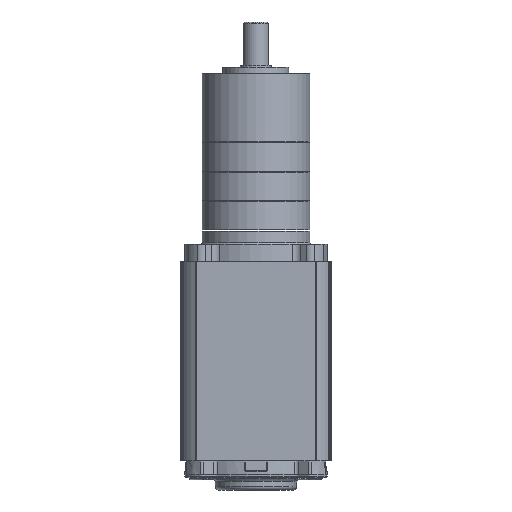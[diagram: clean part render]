
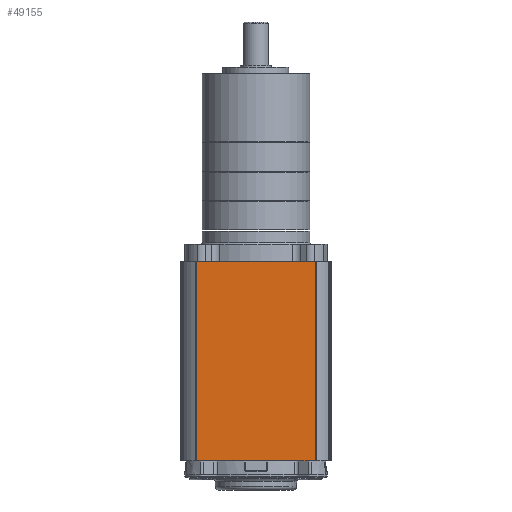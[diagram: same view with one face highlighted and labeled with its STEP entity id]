
A CAD part, front view. The second image highlights one B-rep face of the part: STEP entity #49155.
In plain terms, the highlighted planar face has unit normal (0, -1, 0).
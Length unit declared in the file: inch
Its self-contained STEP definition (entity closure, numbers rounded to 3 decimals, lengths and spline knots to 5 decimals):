
#454 = VECTOR ( 'NONE', #9520, 39.37008 ) ;
#1269 = EDGE_CURVE ( 'NONE', #53486, #15435, #15185, .T. ) ;
#2892 = CARTESIAN_POINT ( 'NONE',  ( -1.1275, -1.442, -1.83454 ) ) ;
#2986 = CARTESIAN_POINT ( 'NONE',  ( 1.1275, -1.442, -5.62954 ) ) ;
#3580 = VECTOR ( 'NONE', #14194, 39.37008 ) ;
#3964 = ORIENTED_EDGE ( 'NONE', *, *, #1269, .F. ) ;
#6423 = VECTOR ( 'NONE', #33758, 39.37008 ) ;
#7103 = CARTESIAN_POINT ( 'NONE',  ( -1.1275, -1.442, -5.62954 ) ) ;
#8131 = ORIENTED_EDGE ( 'NONE', *, *, #25619, .F. ) ;
#9520 = DIRECTION ( 'NONE',  ( 0., 0., 1. ) ) ;
#10962 = CARTESIAN_POINT ( 'NONE',  ( -1.1475, -1.442, -5.76454 ) ) ;
#11371 = CARTESIAN_POINT ( 'NONE',  ( -1.1275, -1.442, -5.76454 ) ) ;
#11573 = LINE ( 'NONE', #11371, #34776 ) ;
#11799 = CARTESIAN_POINT ( 'NONE',  ( 1.1275, -1.442, -1.83454 ) ) ;
#13324 = VERTEX_POINT ( 'NONE', #7103 ) ;
#14194 = DIRECTION ( 'NONE',  ( 1., 0., 0. ) ) ;
#14931 = AXIS2_PLACEMENT_3D ( 'NONE', #10962, #41487, #15341 ) ;
#15185 = LINE ( 'NONE', #18409, #3580 ) ;
#15341 = DIRECTION ( 'NONE',  ( 1., 0., 0. ) ) ;
#15435 = VERTEX_POINT ( 'NONE', #11799 ) ;
#18409 = CARTESIAN_POINT ( 'NONE',  ( -1.1475, -1.442, -1.83454 ) ) ;
#19365 = LINE ( 'NONE', #55447, #6423 ) ;
#24864 = EDGE_LOOP ( 'NONE', ( #27661, #8131, #36810, #3964 ) ) ;
#25619 = EDGE_CURVE ( 'NONE', #41073, #13324, #19365, .T. ) ;
#27661 = ORIENTED_EDGE ( 'NONE', *, *, #52966, .T. ) ;
#32560 = EDGE_CURVE ( 'NONE', #41073, #15435, #46828, .T. ) ;
#33758 = DIRECTION ( 'NONE',  ( -1., 0., 0. ) ) ;
#34776 = VECTOR ( 'NONE', #41887, 39.37008 ) ;
#36810 = ORIENTED_EDGE ( 'NONE', *, *, #32560, .T. ) ;
#41073 = VERTEX_POINT ( 'NONE', #2986 ) ;
#41487 = DIRECTION ( 'NONE',  ( 0., -1., 0. ) ) ;
#41887 = DIRECTION ( 'NONE',  ( 0., 0., -1. ) ) ;
#42452 = FACE_OUTER_BOUND ( 'NONE', #24864, .T. ) ;
#45646 = PLANE ( 'NONE',  #14931 ) ;
#46828 = LINE ( 'NONE', #48591, #454 ) ;
#48591 = CARTESIAN_POINT ( 'NONE',  ( 1.1275, -1.442, -5.76454 ) ) ;
#49155 = ADVANCED_FACE ( 'NONE', ( #42452 ), #45646, .T. ) ;
#52966 = EDGE_CURVE ( 'NONE', #53486, #13324, #11573, .T. ) ;
#53486 = VERTEX_POINT ( 'NONE', #2892 ) ;
#55447 = CARTESIAN_POINT ( 'NONE',  ( 1.1275, -1.442, -5.62954 ) ) ;
